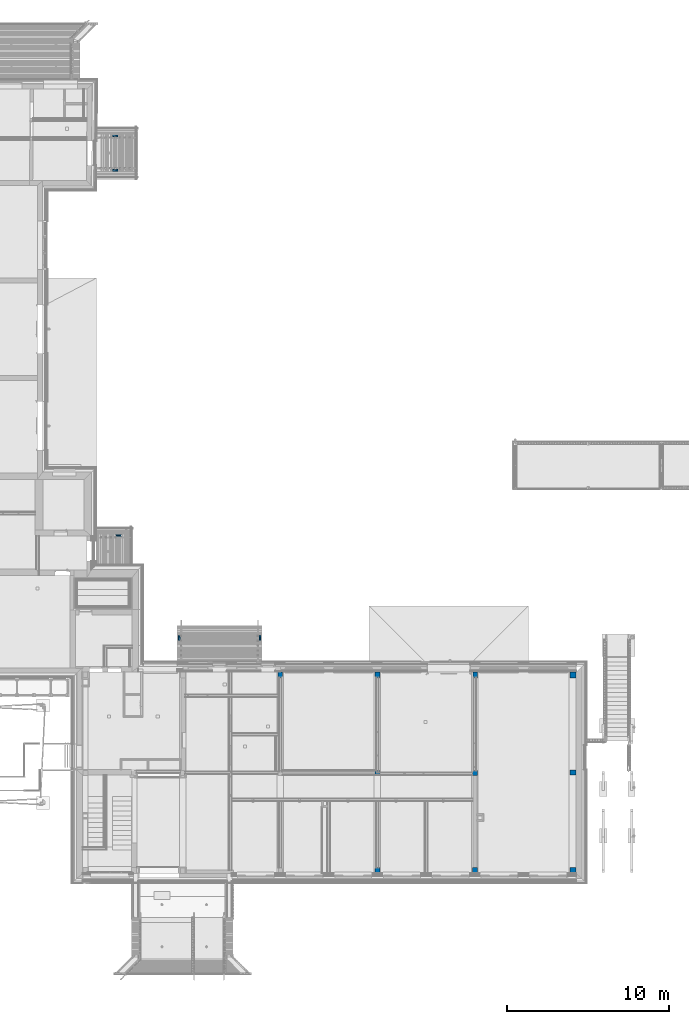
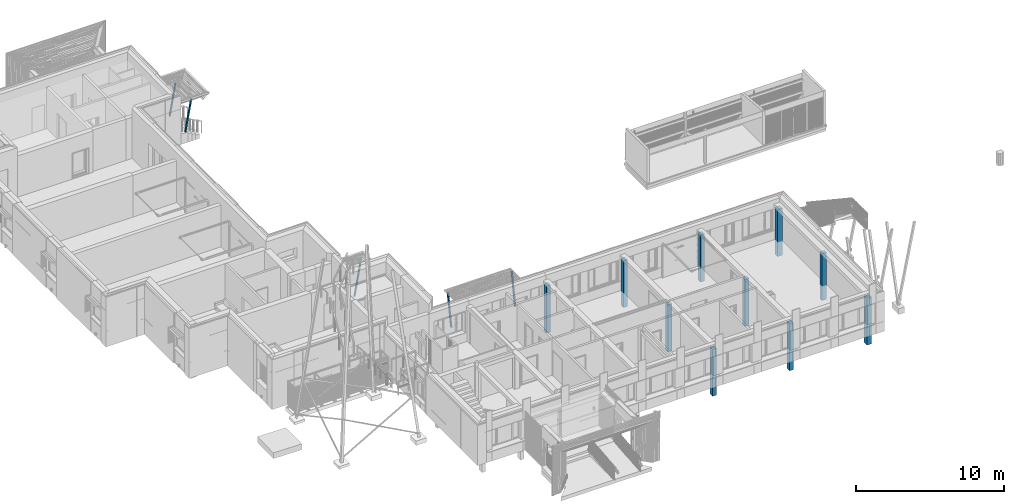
# One storey, part 5 of 418: 15 columns.
"""IFC2X3 building model written with IfcOpenShell, lengths in millimetres."""

from ifc_helpers import new_model, entity, si_unit, converted_unit, derived_unit, money_unit, direction, frame, origin_with_axes, origin_2d_with_axis, place, context, subcontext, project, spatial, rectangle, extrude, clip, halfspace, material, type_object, element, save


model = new_model("IFC2X3")

# Units and contexts
model_context = context("Model", 3, precision=0.01, world=origin_with_axes(), true_north=direction((0.0, 1.0)))
body_context = subcontext(model_context, "Body", "Model", "MODEL_VIEW")
ifc_project = project(units=[si_unit("LENGTHUNIT", "METRE", prefix="MILLI"), si_unit("AREAUNIT", "SQUARE_METRE"), si_unit("VOLUMEUNIT", "CUBIC_METRE"), converted_unit("PLANEANGLEUNIT", "DEGREE", entity("IfcPlaneAngleMeasure", 0.0174532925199), si_unit("PLANEANGLEUNIT", "RADIAN"), dimensions=[0, 0, 0, 0, 0, 0, 0]), si_unit("SOLIDANGLEUNIT", "STERADIAN"), money_unit("EUR"), converted_unit("TIMEUNIT", "Year", entity("IfcTimeMeasure", 31556926.0), si_unit("TIMEUNIT", "SECOND"), dimensions=[0, 0, 1, 0, 0, 0, 0]), si_unit("MASSUNIT", "GRAM", prefix="KILO"), si_unit("THERMODYNAMICTEMPERATUREUNIT", "DEGREE_CELSIUS"), si_unit("LUMINOUSINTENSITYUNIT", "LUMEN"), si_unit("ENERGYUNIT", "JOULE", prefix="MEGA"), derived_unit("THERMALCONDUCTANCEUNIT", [(si_unit("POWERUNIT", "WATT"), 1), (si_unit("LENGTHUNIT", "METRE"), -1), (si_unit("THERMODYNAMICTEMPERATUREUNIT", "KELVIN"), -1)]), derived_unit("SPECIFICHEATCAPACITYUNIT", [(si_unit("ENERGYUNIT", "JOULE"), 1), (si_unit("MASSUNIT", "GRAM", prefix="KILO"), -1), (si_unit("THERMODYNAMICTEMPERATUREUNIT", "KELVIN"), -1)]), derived_unit("MASSDENSITYUNIT", [(si_unit("MASSUNIT", "GRAM", prefix="KILO"), 1), (si_unit("VOLUMEUNIT", "CUBIC_METRE"), -1)])], contexts=[model_context])

# Site, building, storey
site_placement = place(None, origin_with_axes())
site = spatial("IfcSite", under=ifc_project, at=site_placement, Name="Paldiski mnt 245/1, Tallinn, Harjumaa", CompositionType="COMPLEX")
building_placement = place(site_placement, origin_with_axes())
building = spatial("IfcBuilding", under=site, at=building_placement, Name="RKAS Hoone üldnimetus (kasutust iseloomustav) -> IFC Project Manager -> SOLIBRI", CompositionType="ELEMENT")
storey_placement = place(building_placement, origin_with_axes())
storey = spatial("IfcBuildingStorey", under=building, at=storey_placement, Name="Esimene korrus", CompositionType="ELEMENT", Elevation=0.0)

# Columns
ifc_material_1 = material(Name="KON-00_GENEERILINE - KONSTRUKTSIOON")
column_type_1 = type_object("IfcColumnType", Name="KON-00_GENEERILINE - KONSTRUKTSIOON 300 x 360", PredefinedType="COLUMN")
for number, where, z_axis, x_axis, name in (
    (1, (-35440.0, -289.999999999, -1200.0), (0.0, 0.0, 1.0), (1.0, 0.0, 0.0), "POST"),
    (2, (-29460.0, -12330.0840871, -1200.0), (0.0, 0.0, 1.0), (1.0, 0.0, 0.0), "POST"),
    (3, (-29460.0, -289.999999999, -1200.0), (0.0, 0.0, 1.0), (1.0, 0.0, 0.0), "POST"),
    (4, (-23460.0, -12330.0840871, -1200.0), (0.0, 0.0, 1.0), (1.0, 0.0, 0.0), "POST"),
    (5, (-23440.0, -290.0, -1200.0), (0.0, 0.0, 1.0), (1.0, 0.0, 0.0), "POST"),
):
    element("IfcColumn", number, at=place(storey_placement, frame(where, z_axis=z_axis, x_axis=x_axis)), inside=storey, type_object=column_type_1, material=ifc_material_1, Name=name, ObjectType="COLUMN", context=body_context, shape_type="SweptSolid", body=[
        extrude(rectangle(XDim=300.0, YDim=360.0, at=origin_2d_with_axis()), origin_with_axes(), (0.0, 0.0, 1.0), 3870.0),
    ])
column_type_2 = type_object("IfcColumnType", Name="KON-00_GENEERILINE - KONSTRUKTSIOON 360 x 360", PredefinedType="COLUMN")
for number, where, z_axis, x_axis, name in (
    (6, (-17410.0, -290.0, -1200.0), (0.0, 0.0, 1.0), (1.0, 0.0, 0.0), "POST"),
    (7, (-17410.0, -12330.0843011, -1200.0), (0.0, 0.0, 1.0), (1.0, 0.0, 0.0), "POST"),
):
    element("IfcColumn", number, at=place(storey_placement, frame(where, z_axis=z_axis, x_axis=x_axis)), inside=storey, type_object=column_type_2, material=ifc_material_1, Name=name, ObjectType="COLUMN", context=body_context, shape_type="SweptSolid", body=[
        extrude(rectangle(XDim=360.0, YDim=360.0, at=origin_2d_with_axis()), origin_with_axes(), (0.0, 0.0, 1.0), 3870.0),
    ])
column_type_3 = type_object("IfcColumnType", Name="KON-00_GENEERILINE - KONSTRUKTSIOON 300 x 300", PredefinedType="COLUMN")
for number, where, z_axis, x_axis, name in (
    (8, (-29460.0, -6330.0, -1200.0), (0.0, 0.0, 1.0), (1.0, 0.0, 0.0), "POST"),
    (9, (-23460.0, -6330.0, -1200.0), (0.0, 0.0, 1.0), (1.0, 0.0, 0.0), "POST"),
):
    element("IfcColumn", number, at=place(storey_placement, frame(where, z_axis=z_axis, x_axis=x_axis)), inside=storey, type_object=column_type_3, material=ifc_material_1, Name=name, ObjectType="COLUMN", context=body_context, shape_type="SweptSolid", body=[
        extrude(rectangle(XDim=300.0, YDim=300.0, at=origin_2d_with_axis()), origin_with_axes(), (0.0, 0.0, 1.0), 3870.0),
    ])
column_type_4 = type_object("IfcColumnType", Name="KON-00_GENEERILINE - KONSTRUKTSIOON 360 x 300", PredefinedType="COLUMN")
column_1_placement = place(storey_placement, frame((-17410.0, -6310.0, -1200.0), z_axis=(0.0, 0.0, 1.0), x_axis=(1.0, 0.0, 0.0)))
element("IfcColumn", 10, at=column_1_placement, inside=storey, type_object=column_type_4, material=ifc_material_1, Name="POST", ObjectType="COLUMN", context=body_context, shape_type="SweptSolid", body=[
    extrude(rectangle(XDim=360.0, YDim=300.0, at=origin_2d_with_axis()), origin_with_axes(), (0.0, 0.0, 1.0), 3870.0),
])
ifc_material_2 = material(Name="ET-05_Teras")
column_type_5 = type_object("IfcColumnType", Name="ET-05_Teras 100 x 100", PredefinedType="COLUMN")
column_2_placement = place(storey_placement, frame((-36686.0, 1876.20883087, -20.0), z_axis=(0.0, 0.0, 1.0), x_axis=(1.0, 0.0, 0.0)))
element("IfcColumn", 11, at=column_2_placement, inside=storey, type_object=column_type_5, material=ifc_material_2, Name="Teraspost", ObjectType="COLUMN", context=body_context, shape_type="Clipping", body=[
    clip(clip(extrude(rectangle(XDim=100.0, YDim=100.0, at=origin_2d_with_axis()), frame((0.0, -3.06188588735, -17.3648177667), z_axis=(0.0, 0.173648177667, 0.984807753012), x_axis=(1.0, 0.0, 0.0)), (0.0, 0.0, 1.0), 2655.066055), halfspace(frame((0.0, 0.0, 0.0), z_axis=(0.0, 0.0, 1.0), x_axis=(0.0, -1.0, 0.0)), True)), halfspace(frame((0.0, 0.0, 2580.00000019), z_axis=(0.0, 0.0, -1.0), x_axis=(0.0, 1.0, 0.0)), True)),
])
column_3_placement = place(storey_placement, frame((-41660.5503263, 1879.73537049, 0.0), z_axis=(0.0, 0.0, 1.0), x_axis=(1.0, 0.0, 0.0)))
element("IfcColumn", 12, at=column_3_placement, inside=storey, type_object=column_type_5, material=ifc_material_2, Name="Teraspost", ObjectType="COLUMN", context=body_context, shape_type="Clipping", body=[
    clip(clip(extrude(rectangle(XDim=100.0, YDim=100.0, at=origin_2d_with_axis()), frame((0.0, -3.06188588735, -17.3648177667), z_axis=(0.0, 0.173648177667, 0.984807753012), x_axis=(1.0, 0.0, 0.0)), (0.0, 0.0, 1.0), 2634.75752277), halfspace(frame((0.0, 0.0, 0.0), z_axis=(0.0, 0.0, 1.0), x_axis=(0.0, -1.0, 0.0)), True)), halfspace(frame((0.0, 0.0, 2560.00000019), z_axis=(0.0, 0.0, -1.0), x_axis=(0.0, 1.0, 0.0)), True)),
])
column_4_placement = place(storey_placement, frame((-45707.7084193, 30771.790867, -20.0), z_axis=(0.0, 0.0, 1.0), x_axis=(0.0, -1.0, 0.0)))
element("IfcColumn", 13, at=column_4_placement, inside=storey, type_object=column_type_5, material=ifc_material_2, Name="Teraspost", ObjectType="COLUMN", context=body_context, shape_type="Clipping", body=[
    clip(clip(extrude(rectangle(XDim=100.0, YDim=100.0, at=origin_2d_with_axis()), frame((0.0, -3.06188588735, -17.3648177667), z_axis=(0.0, 0.173648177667, 0.984807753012), x_axis=(1.0, 0.0, 0.0)), (0.0, 0.0, 1.0), 2655.066055), halfspace(frame((0.0, 0.0, 0.0), z_axis=(0.0, 0.0, 1.0), x_axis=(0.0, -1.0, 0.0)), True)), halfspace(frame((0.0, 0.0, 2580.00000019), z_axis=(0.0, 0.0, -1.0), x_axis=(0.0, 1.0, 0.0)), True)),
])
for number, where, z_axis, x_axis in (
    (14, (-45704.1818797, 32891.6821964, 0.0), (0.0, 0.0, 1.0), (0.0, -1.0, 0.0)),
    (15, (-45507.4756797, 8293.7200537, 0.0), (0.0, 0.0, 1.0), (0.0, -1.0, 0.0)),
):
    element("IfcColumn", number, at=place(storey_placement, frame(where, z_axis=z_axis, x_axis=x_axis)), inside=storey, type_object=column_type_5, material=ifc_material_2, Name="Teraspost", ObjectType="COLUMN", context=body_context, shape_type="Clipping", body=[
        clip(clip(extrude(rectangle(XDim=100.0, YDim=100.0, at=origin_2d_with_axis()), frame((0.0, -3.06188588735, -17.3648177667), z_axis=(0.0, 0.173648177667, 0.984807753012), x_axis=(1.0, 0.0, 0.0)), (0.0, 0.0, 1.0), 2634.75752277), halfspace(frame((0.0, 0.0, 0.0), z_axis=(0.0, 0.0, 1.0), x_axis=(0.0, -1.0, 0.0)), True)), halfspace(frame((0.0, 0.0, 2560.00000019), z_axis=(0.0, 0.0, -1.0), x_axis=(0.0, 1.0, 0.0)), True)),
    ])

save(model, "model.ifc")
